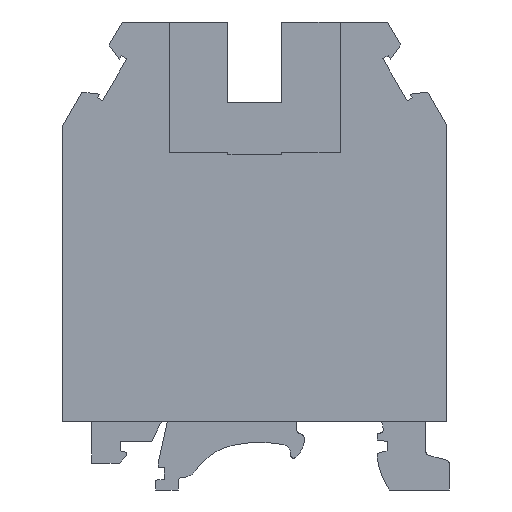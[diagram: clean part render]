
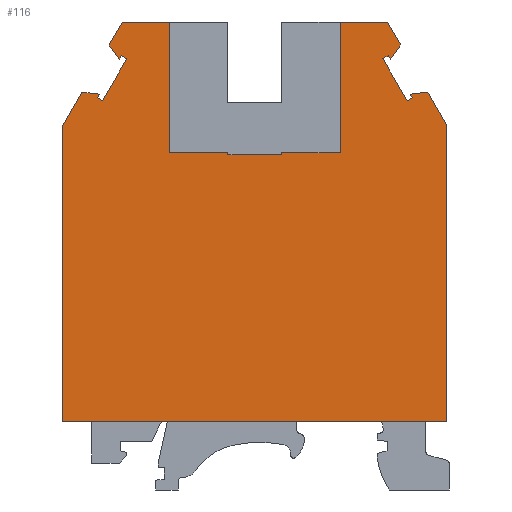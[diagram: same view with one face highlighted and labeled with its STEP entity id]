
A CAD part, left-side view. The second image highlights one B-rep face of the part: STEP entity #116.
In plain terms, the highlighted planar face has unit normal (-1, 0, 0).
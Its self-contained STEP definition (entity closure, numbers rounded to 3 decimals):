
#116=ADVANCED_FACE('',(#309),#310,.F.);
#309=FACE_OUTER_BOUND('',#614,.T.);
#310=PLANE('',#615);
#614=EDGE_LOOP('',(#1186,#1187,#1188,#1189,#1190,#1191,#1192,#1193,#1194,#1195,#1196,#1197,#1198,#1199,#1200,#1201,#1202,#1203,#1204,#1205,#1206,#1207,#1208,#1209,#1210,#1211,#1212,#1213,#1214,#1215));
#615=AXIS2_PLACEMENT_3D('',#1216,#1217,#1218);
#1186=ORIENTED_EDGE('',*,*,#2297,.F.);
#1187=ORIENTED_EDGE('',*,*,#2273,.T.);
#1188=ORIENTED_EDGE('',*,*,#2168,.T.);
#1189=ORIENTED_EDGE('',*,*,#2298,.T.);
#1190=ORIENTED_EDGE('',*,*,#2285,.T.);
#1191=ORIENTED_EDGE('',*,*,#2179,.T.);
#1192=ORIENTED_EDGE('',*,*,#2299,.T.);
#1193=ORIENTED_EDGE('',*,*,#2300,.T.);
#1194=ORIENTED_EDGE('',*,*,#2301,.T.);
#1195=ORIENTED_EDGE('',*,*,#2228,.T.);
#1196=ORIENTED_EDGE('',*,*,#2279,.T.);
#1197=ORIENTED_EDGE('',*,*,#2250,.T.);
#1198=ORIENTED_EDGE('',*,*,#2302,.F.);
#1199=ORIENTED_EDGE('',*,*,#2303,.F.);
#1200=ORIENTED_EDGE('',*,*,#2304,.F.);
#1201=ORIENTED_EDGE('',*,*,#2305,.F.);
#1202=ORIENTED_EDGE('',*,*,#2306,.F.);
#1203=ORIENTED_EDGE('',*,*,#2307,.F.);
#1204=ORIENTED_EDGE('',*,*,#2308,.F.);
#1205=ORIENTED_EDGE('',*,*,#2309,.T.);
#1206=ORIENTED_EDGE('',*,*,#2201,.T.);
#1207=ORIENTED_EDGE('',*,*,#2310,.T.);
#1208=ORIENTED_EDGE('',*,*,#2311,.T.);
#1209=ORIENTED_EDGE('',*,*,#2312,.T.);
#1210=ORIENTED_EDGE('',*,*,#2313,.T.);
#1211=ORIENTED_EDGE('',*,*,#2160,.T.);
#1212=ORIENTED_EDGE('',*,*,#2314,.T.);
#1213=ORIENTED_EDGE('',*,*,#2315,.T.);
#1214=ORIENTED_EDGE('',*,*,#2316,.T.);
#1215=ORIENTED_EDGE('',*,*,#2317,.T.);
#1216=CARTESIAN_POINT('',(0.0,-371.336,-158.505));
#1217=DIRECTION('',(1.0,0.0,0.0));
#1218=DIRECTION('',(0.0,1.0,0.0));
#2160=EDGE_CURVE('',#2616,#2620,#2622,.T.);
#2168=EDGE_CURVE('',#2631,#2636,#2638,.T.);
#2179=EDGE_CURVE('',#2653,#2657,#2659,.T.);
#2201=EDGE_CURVE('',#2698,#2695,#2699,.T.);
#2228=EDGE_CURVE('',#2742,#2746,#2748,.T.);
#2250=EDGE_CURVE('',#2791,#2789,#2792,.T.);
#2273=EDGE_CURVE('',#2823,#2631,#2827,.T.);
#2279=EDGE_CURVE('',#2746,#2791,#2837,.T.);
#2285=EDGE_CURVE('',#2842,#2653,#2845,.T.);
#2297=EDGE_CURVE('',#2823,#2863,#2864,.T.);
#2298=EDGE_CURVE('',#2636,#2842,#2865,.T.);
#2299=EDGE_CURVE('',#2657,#2866,#2867,.T.);
#2300=EDGE_CURVE('',#2866,#2868,#2869,.T.);
#2301=EDGE_CURVE('',#2868,#2742,#2870,.T.);
#2302=EDGE_CURVE('',#2871,#2789,#2872,.T.);
#2303=EDGE_CURVE('',#2873,#2871,#2874,.T.);
#2304=EDGE_CURVE('',#2875,#2873,#2876,.T.);
#2305=EDGE_CURVE('',#2877,#2875,#2878,.T.);
#2306=EDGE_CURVE('',#2879,#2877,#2880,.T.);
#2307=EDGE_CURVE('',#2881,#2879,#2882,.T.);
#2308=EDGE_CURVE('',#2883,#2881,#2884,.T.);
#2309=EDGE_CURVE('',#2883,#2698,#2885,.T.);
#2310=EDGE_CURVE('',#2695,#2886,#2887,.T.);
#2311=EDGE_CURVE('',#2886,#2888,#2889,.T.);
#2312=EDGE_CURVE('',#2888,#2890,#2891,.T.);
#2313=EDGE_CURVE('',#2890,#2616,#2892,.T.);
#2314=EDGE_CURVE('',#2620,#2893,#2894,.T.);
#2315=EDGE_CURVE('',#2893,#2895,#2896,.T.);
#2316=EDGE_CURVE('',#2895,#2897,#2898,.T.);
#2317=EDGE_CURVE('',#2897,#2863,#2899,.T.);
#2616=VERTEX_POINT('',#3333);
#2620=VERTEX_POINT('',#3339);
#2622=LINE('',#3342,#3343);
#2631=VERTEX_POINT('',#3356);
#2636=VERTEX_POINT('',#3363);
#2638=LINE('',#3366,#3367);
#2653=VERTEX_POINT('',#3389);
#2657=VERTEX_POINT('',#3395);
#2659=LINE('',#3398,#3399);
#2695=VERTEX_POINT('',#3446);
#2698=VERTEX_POINT('',#3450);
#2699=LINE('',#3451,#3452);
#2742=VERTEX_POINT('',#3513);
#2746=VERTEX_POINT('',#3519);
#2748=LINE('',#3522,#3523);
#2789=VERTEX_POINT('',#3580);
#2791=VERTEX_POINT('',#3583);
#2792=LINE('',#3584,#3585);
#2823=VERTEX_POINT('',#3633);
#2827=LINE('',#3639,#3640);
#2837=LINE('',#3655,#3656);
#2842=VERTEX_POINT('',#3663);
#2845=LINE('',#3668,#3669);
#2863=VERTEX_POINT('',#3696);
#2864=LINE('',#3697,#3698);
#2865=LINE('',#3699,#3700);
#2866=VERTEX_POINT('',#3701);
#2867=LINE('',#3702,#3703);
#2868=VERTEX_POINT('',#3704);
#2869=LINE('',#3705,#3706);
#2870=LINE('',#3707,#3708);
#2871=VERTEX_POINT('',#3709);
#2872=LINE('',#3710,#3711);
#2873=VERTEX_POINT('',#3712);
#2874=LINE('',#3713,#3714);
#2875=VERTEX_POINT('',#3715);
#2876=LINE('',#3716,#3717);
#2877=VERTEX_POINT('',#3718);
#2878=LINE('',#3719,#3720);
#2879=VERTEX_POINT('',#3721);
#2880=LINE('',#3722,#3723);
#2881=VERTEX_POINT('',#3724);
#2882=LINE('',#3725,#3726);
#2883=VERTEX_POINT('',#3727);
#2884=LINE('',#3728,#3729);
#2885=LINE('',#3730,#3731);
#2886=VERTEX_POINT('',#3732);
#2887=LINE('',#3733,#3734);
#2888=VERTEX_POINT('',#3735);
#2889=LINE('',#3736,#3737);
#2890=VERTEX_POINT('',#3738);
#2891=LINE('',#3739,#3740);
#2892=LINE('',#3741,#3742);
#2893=VERTEX_POINT('',#3743);
#2894=LINE('',#3744,#3745);
#2895=VERTEX_POINT('',#3746);
#2896=LINE('',#3747,#3748);
#2897=VERTEX_POINT('',#3749);
#2898=LINE('',#3750,#3751);
#2899=LINE('',#3752,#3753);
#3333=CARTESIAN_POINT('',(0.0,45.11,50.666));
#3339=CARTESIAN_POINT('',(0.0,45.785,51.056));
#3342=CARTESIAN_POINT('',(0.0,-371.336,-189.769));
#3343=VECTOR('',#4358,1.0);
#3356=CARTESIAN_POINT('',(0.0,0.3,47.477));
#3363=CARTESIAN_POINT('',(0.0,2.785,51.78));
#3366=CARTESIAN_POINT('',(0.0,-118.624,-158.505));
#3367=VECTOR('',#4366,1.0);
#3389=CARTESIAN_POINT('',(0.0,4.815,51.056));
#3395=CARTESIAN_POINT('',(0.0,5.49,50.666));
#3398=CARTESIAN_POINT('',(0.0,-371.336,268.227));
#3399=VECTOR('',#4377,1.0);
#3446=CARTESIAN_POINT('',(0.0,44.277,57.908));
#3450=CARTESIAN_POINT('',(0.0,42.55,60.9));
#3451=CARTESIAN_POINT('',(0.0,169.224,-158.505));
#3452=VECTOR('',#4417,1.0);
#3513=CARTESIAN_POINT('',(0.0,7.709,56.069));
#3519=CARTESIAN_POINT('',(0.0,6.323,57.908));
#3522=CARTESIAN_POINT('',(0.0,169.386,-158.505));
#3523=VECTOR('',#4454,1.0);
#3580=CARTESIAN_POINT('',(0.0,14.2,60.9));
#3583=CARTESIAN_POINT('',(0.0,8.05,60.9));
#3584=CARTESIAN_POINT('',(0.0,-371.336,60.9));
#3585=VECTOR('',#4484,1.0);
#3633=CARTESIAN_POINT('',(0.0,0.3,8.9));
#3639=CARTESIAN_POINT('',(0.0,0.3,-158.505));
#3640=VECTOR('',#4513,1.0);
#3655=CARTESIAN_POINT('',(0.0,-118.624,-158.505));
#3656=VECTOR('',#4519,1.0);
#3663=CARTESIAN_POINT('',(0.0,5.071,51.499));
#3668=CARTESIAN_POINT('',(0.0,-116.176,-158.505));
#3669=VECTOR('',#4527,1.0);
#3696=CARTESIAN_POINT('',(0.0,50.3,8.9));
#3697=CARTESIAN_POINT('',(0.0,-371.336,8.9));
#3698=VECTOR('',#4543,1.0);
#3699=CARTESIAN_POINT('',(0.0,-371.336,97.699));
#3700=VECTOR('',#4544,1.0);
#3701=CARTESIAN_POINT('',(0.0,8.64,56.122));
#3702=CARTESIAN_POINT('',(0.0,-115.275,-158.505));
#3703=VECTOR('',#4545,1.0);
#3704=CARTESIAN_POINT('',(0.0,7.965,56.512));
#3705=CARTESIAN_POINT('',(0.0,-371.336,275.501));
#3706=VECTOR('',#4546,1.0);
#3707=CARTESIAN_POINT('',(0.0,-116.176,-158.505));
#3708=VECTOR('',#4547,1.0);
#3709=CARTESIAN_POINT('',(0.0,14.2,43.9));
#3710=CARTESIAN_POINT('',(0.0,14.2,-158.505));
#3711=VECTOR('',#4548,1.0);
#3712=CARTESIAN_POINT('',(0.0,21.8,43.9));
#3713=CARTESIAN_POINT('',(0.0,-371.336,43.9));
#3714=VECTOR('',#4549,1.0);
#3715=CARTESIAN_POINT('',(0.0,21.8,43.6));
#3716=CARTESIAN_POINT('',(0.0,21.8,-158.505));
#3717=VECTOR('',#4550,1.0);
#3718=CARTESIAN_POINT('',(0.0,28.8,43.6));
#3719=CARTESIAN_POINT('',(0.0,-371.336,43.6));
#3720=VECTOR('',#4551,1.0);
#3721=CARTESIAN_POINT('',(0.0,28.8,43.9));
#3722=CARTESIAN_POINT('',(0.0,28.8,-158.505));
#3723=VECTOR('',#4552,1.0);
#3724=CARTESIAN_POINT('',(0.0,36.4,43.9));
#3725=CARTESIAN_POINT('',(0.0,-371.336,43.9));
#3726=VECTOR('',#4553,1.0);
#3727=CARTESIAN_POINT('',(0.0,36.4,60.9));
#3728=CARTESIAN_POINT('',(0.0,36.4,-158.505));
#3729=VECTOR('',#4554,1.0);
#3730=CARTESIAN_POINT('',(0.0,-371.336,60.9));
#3731=VECTOR('',#4555,1.0);
#3732=CARTESIAN_POINT('',(0.0,42.891,56.069));
#3733=CARTESIAN_POINT('',(0.0,-118.786,-158.505));
#3734=VECTOR('',#4556,1.0);
#3735=CARTESIAN_POINT('',(0.0,42.635,56.512));
#3736=CARTESIAN_POINT('',(0.0,166.776,-158.505));
#3737=VECTOR('',#4557,1.0);
#3738=CARTESIAN_POINT('',(0.0,41.96,56.122));
#3739=CARTESIAN_POINT('',(0.0,-371.336,-182.494));
#3740=VECTOR('',#4558,1.0);
#3741=CARTESIAN_POINT('',(0.0,165.875,-158.505));
#3742=VECTOR('',#4559,1.0);
#3743=CARTESIAN_POINT('',(0.0,45.529,51.499));
#3744=CARTESIAN_POINT('',(0.0,166.776,-158.505));
#3745=VECTOR('',#4560,1.0);
#3746=CARTESIAN_POINT('',(0.0,47.815,51.78));
#3747=CARTESIAN_POINT('',(0.0,-371.336,0.335));
#3748=VECTOR('',#4561,1.0);
#3749=CARTESIAN_POINT('',(0.0,50.3,47.477));
#3750=CARTESIAN_POINT('',(0.0,169.224,-158.505));
#3751=VECTOR('',#4562,1.0);
#3752=CARTESIAN_POINT('',(0.0,50.3,-158.505));
#3753=VECTOR('',#4563,1.0);
#4358=DIRECTION('',(0.0,0.866,0.5));
#4366=DIRECTION('',(0.0,0.5,0.866));
#4377=DIRECTION('',(0.0,0.866,-0.5));
#4417=DIRECTION('',(0.0,0.5,-0.866));
#4454=DIRECTION('',(0.0,-0.602,0.799));
#4484=DIRECTION('',(0.0,1.0,0.0));
#4513=DIRECTION('',(0.0,0.0,1.0));
#4519=DIRECTION('',(0.0,0.5,0.866));
#4527=DIRECTION('',(0.0,-0.5,-0.866));
#4543=DIRECTION('',(0.0,1.0,0.0));
#4544=DIRECTION('',(0.0,0.993,-0.122));
#4545=DIRECTION('',(0.0,0.5,0.866));
#4546=DIRECTION('',(0.0,-0.866,0.5));
#4547=DIRECTION('',(0.0,-0.5,-0.866));
#4548=DIRECTION('',(0.0,0.0,1.0));
#4549=DIRECTION('',(0.0,-1.0,0.0));
#4550=DIRECTION('',(0.0,0.0,1.0));
#4551=DIRECTION('',(0.0,-1.0,0.0));
#4552=DIRECTION('',(0.0,0.0,-1.0));
#4553=DIRECTION('',(0.0,-1.0,0.0));
#4554=DIRECTION('',(0.0,0.0,-1.0));
#4555=DIRECTION('',(0.0,1.0,0.0));
#4556=DIRECTION('',(0.0,-0.602,-0.799));
#4557=DIRECTION('',(0.0,-0.5,0.866));
#4558=DIRECTION('',(0.0,-0.866,-0.5));
#4559=DIRECTION('',(0.0,0.5,-0.866));
#4560=DIRECTION('',(0.0,-0.5,0.866));
#4561=DIRECTION('',(0.0,0.993,0.122));
#4562=DIRECTION('',(0.0,0.5,-0.866));
#4563=DIRECTION('',(0.0,0.0,-1.0));
